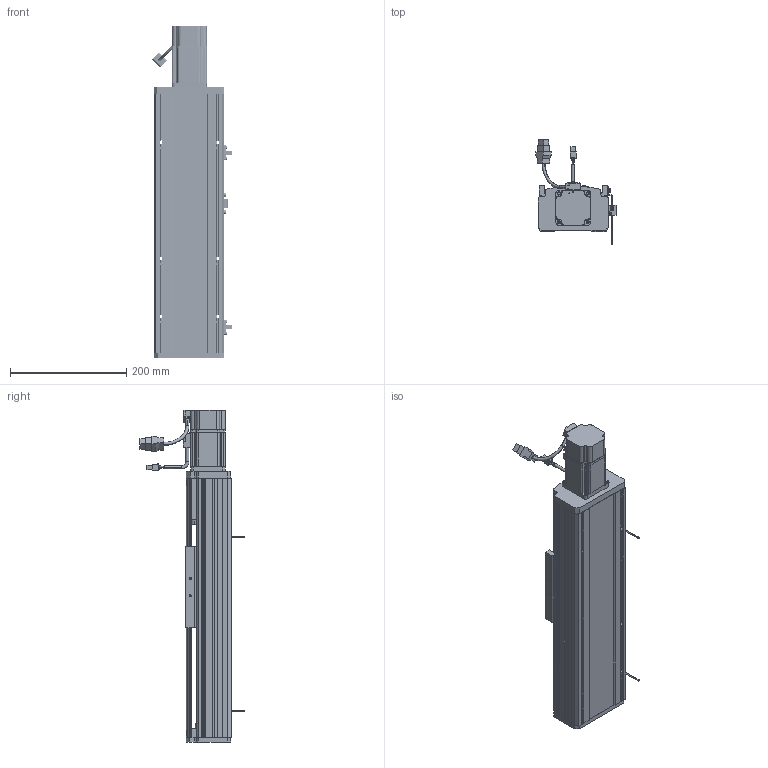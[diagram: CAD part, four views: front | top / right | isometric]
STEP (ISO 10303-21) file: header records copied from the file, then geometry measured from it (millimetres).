
FILE_DESCRIPTION (( 'STEP AP214' ), '1' );
FILE_NAME ('CTH120-200.STEP', '2019-11-20T02:35:17', ( '微软用户' ), ( '微软中国' ), 'SwSTEP 2.0', 'SolidWorks 2017', '' );
FILE_SCHEMA (( 'AUTOMOTIVE_DESIGN' ));
Length unit declared in the file: millimetre
Products named in the file (33): 7001-DB; 7001; 噩砃EGH15-CA; 粣創揤啣; M3-L8囀鞠褒蹟佪; COL12B-粣遠; CT12耀郪-覜茼んえ; 坶踡蹟譫; EE-SX672-BR; 120耀郪-粣創釱; M4-L6半圆头内六角螺丝; 120耀郪-傷啣; M5-L20囀鞠褒蹟佪; 120模组-盖子_默认<按加工>; M5-L12囀鞠褒蹟佪; 120耀郪-侜督儂啣; 怢湛200W侜督萇儂ECMA-CX0602ES; SFH1605; 盓傅釱蚾饜极; 136蹟簽蟀諉輸; 6000; 120模组-移动座_默认<按加工>; 120耀郪-盓傅釱; SFH1605-450; M4-L16囀鞠褒蹟佪; 120模组-底座_默认<按加工>; EGH15-CA; EGH15_RAIL; CTH120-200; 珨极宒粣創釱; 遣喳蝶15x12x8; M4-L10囀鞠褒蹟佪; M4-L22囀鞠褒蹟佪
Assembly tree (90 placements, depth 4):
  CTH120-200
    120模组-底座_默认<按加工>
    SFH1605-450
    120模组-移动座_默认<按加工>
    136蹟簽蟀諉輸
    SFH1605
    120耀郪-侜督儂啣
    120模组-盖子_默认<按加工>
    120耀郪-傷啣
    珨极宒粣創釱
      120耀郪-粣創釱
      坶踡蹟譫
      COL12B-粣遠  x2
      粣創揤啣
      7001-DB
        7001  x2
      M4-L22囀鞠褒蹟佪  x6
      M4-L10囀鞠褒蹟佪  x4
      遣喳蝶15x12x8
    EGH15_RAIL  x2
    EGH15-CA  x2
    M4-L16囀鞠褒蹟佪  x8
    M4-L10囀鞠褒蹟佪  x22
    盓傅釱蚾饜极
      120耀郪-盓傅釱
      6000
      遣喳蝶15x12x8  x2
      M4-L22囀鞠褒蹟佪  x2
    怢湛200W侜督萇儂ECMA-CX0602ES
    M5-L12囀鞠褒蹟佪  x3
    M5-L20囀鞠褒蹟佪  x4
    M4-L6半圆头内六角螺丝  x4
    EE-SX672-BR  x2
    CT12耀郪-覜茼んえ
    M3-L8囀鞠褒蹟佪  x4
    噩砃EGH15-CA  x2
Bounding box: 137.94 x 179.67 x 572 mm (x, y, z)
Volume: 2509671.6 mm3; surface area: 739799.7 mm2
Topology: 87 solids, 96 shells, 5044 faces, 13219 edges, 8441 vertices
Faces by surface type: plane 2771, cylinder 1420, cone 519, bspline 241, torus 81, sphere 12
Entity records: 104138 total; most frequent: CARTESIAN_POINT 30359, ORIENTED_EDGE 15416, DIRECTION 14083, EDGE_CURVE 7708, VERTEX_POINT 5055, AXIS2_PLACEMENT_3D 4756, LINE 4571, VECTOR 4571
